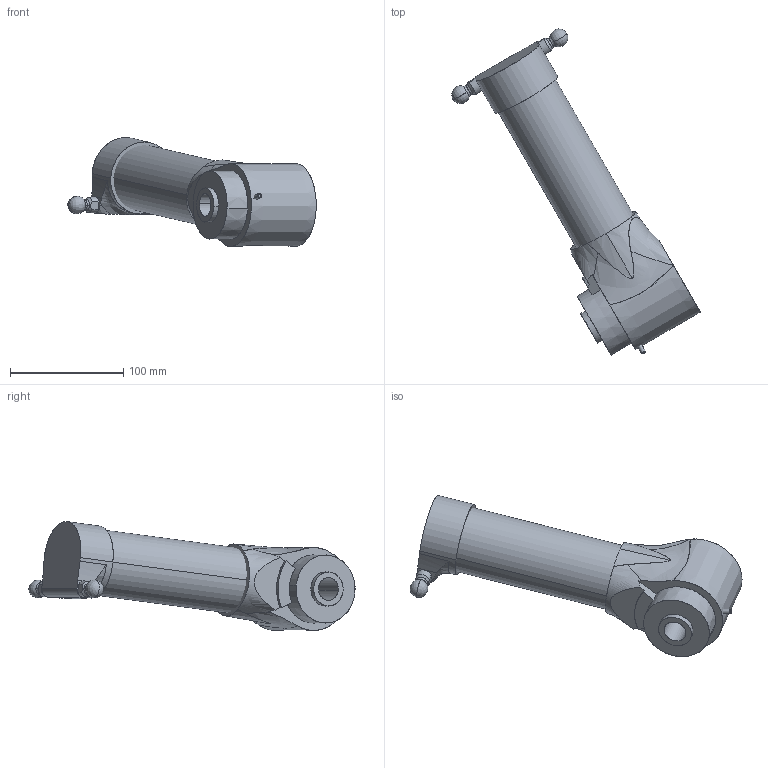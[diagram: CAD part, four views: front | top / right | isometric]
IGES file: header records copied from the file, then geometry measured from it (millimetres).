
Start section: SolidWorks IGES file using analytic representation for surfaces
Global section: file name: C:\Users\SELUHAA\Desktop\Work items\545792\IGES\IRB360_X-800-WD-4D_rev03_IGES_J\IRB360_X-800-WD-4D_rev03_UA3_CAD.IGS; native system: SolidWorks 2022; preprocessor: SolidWorks 2022; author: SELUHAA; date: 231128.145356; units: millimetre
Bounding box: 219 x 287.4 x 95.92 mm (x, y, z)
Surface area: 109389.6 mm2 (no closed solid volume)
Topology: 0 solids, 0 shells, 103 faces, 2107 edges, 2101 vertices
Faces by surface type: revolution 58, bspline 45
